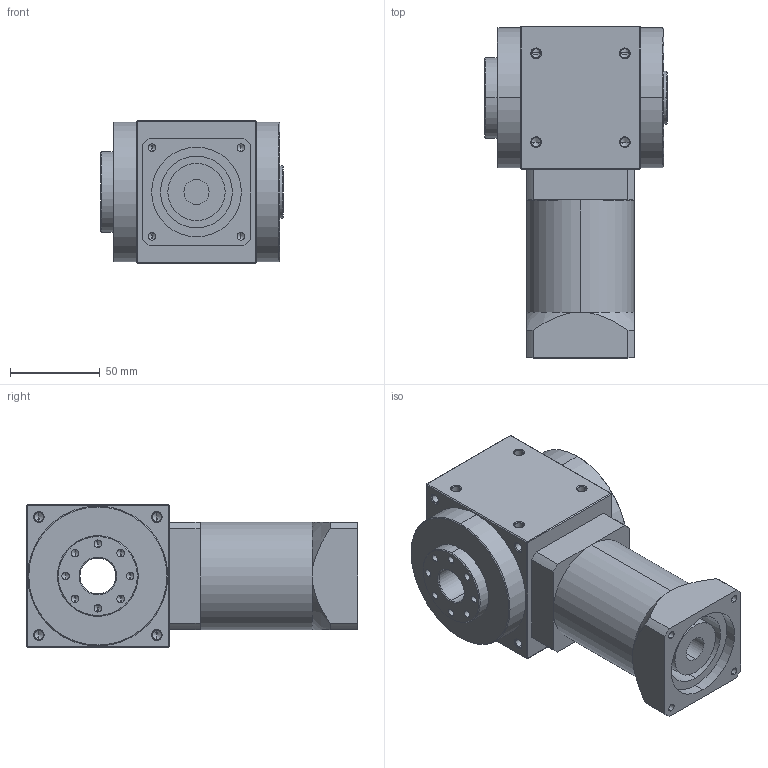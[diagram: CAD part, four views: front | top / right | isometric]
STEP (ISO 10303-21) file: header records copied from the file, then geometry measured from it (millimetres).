
FILE_DESCRIPTION (( 'STEP AP214' ), '1' );
FILE_NAME ('RXW080AS-L2-RF-14-50-70-M5.STEP', '2019-11-16T04:58:57', ( 'User' ), ( 'Far123' ), 'SwSTEP 2.0', 'SolidWorks 2015', '' );
FILE_SCHEMA (( 'AUTOMOTIVE_DESIGN' ));
Length unit declared in the file: millimetre
Products named in the file (1): RXW080AS-L2-RF-14-50-70-M5
Bounding box: 102 x 185 x 80 mm (x, y, z)
Volume: 828967.5 mm3; surface area: 81302.4 mm2
Topology: 1 solids, 1 shells, 267 faces, 608 edges, 328 vertices
Faces by surface type: cone 128, cylinder 92, plane 47
Entity records: 7892 total; most frequent: CARTESIAN_POINT 1388, DIRECTION 1328, ORIENTED_EDGE 1120, EDGE_CURVE 560, AXIS2_PLACEMENT_3D 524, VERTEX_POINT 328, EDGE_LOOP 310, VECTOR 280
